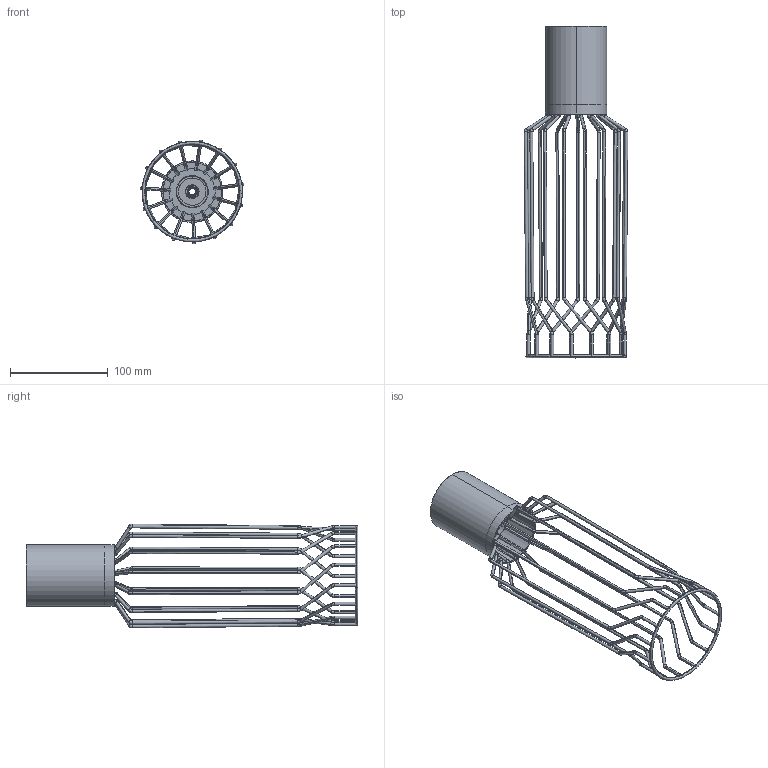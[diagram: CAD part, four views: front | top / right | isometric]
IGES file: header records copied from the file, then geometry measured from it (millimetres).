
Start section: SolidWorks IGES file using analytic representation for surfaces
Global section: file name: F:\GABRYSIA\MODELE 3D\_CAMELEON\KLOSZE I OPRAWY WWW\PICO_B_8590_WWW\PICO_B_8590.IGS; native system: SolidWorks 2017; preprocessor: SolidWorks 2017; author: Togambi; date: 200506.121134; units: millimetre
Bounding box: 106.32 x 340.1 x 106.18 mm (x, y, z)
Surface area: 110601.5 mm2 (no closed solid volume)
Topology: 0 solids, 0 shells, 516 faces, 5978 edges, 5978 vertices
Faces by surface type: revolution 280, bspline 236
